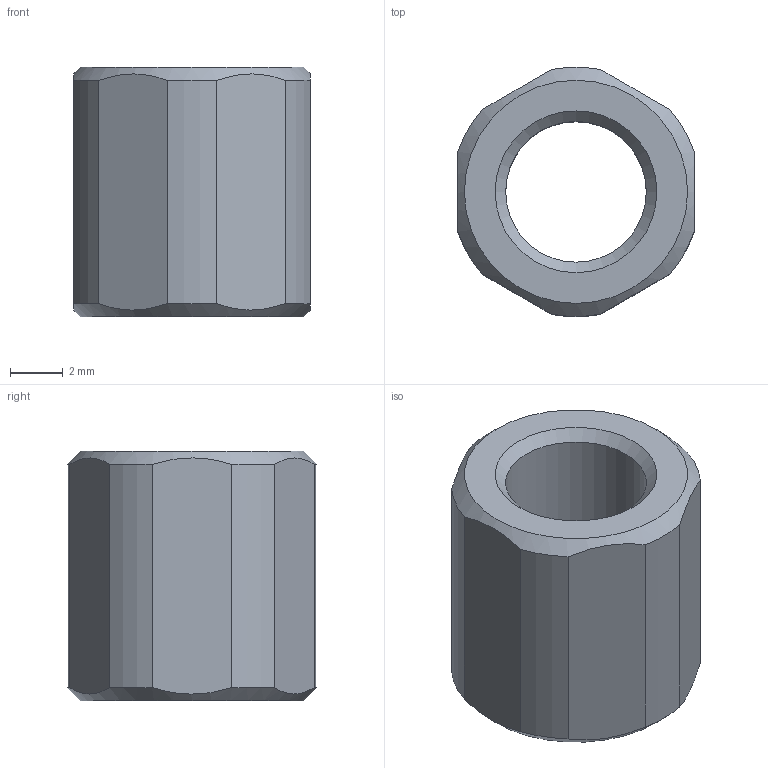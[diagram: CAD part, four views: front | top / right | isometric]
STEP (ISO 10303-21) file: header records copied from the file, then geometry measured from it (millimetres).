
FILE_DESCRIPTION(/* description */ (''),/* implementation_level */ '2;1');
FILE_NAME(/* name */ 'FIT.RNG.1-4.stp',/* time_stamp */ '2026-07-05T21:46:57+02:00',/* author */ ('janos'),/* organization */ (''),/* preprocessor_version */ 'ST-DEVELOPER v19.2',/* originating_system */ 'Autodesk Inventor 2024',/* authorisation */ '');
FILE_SCHEMA (('AUTOMOTIVE_DESIGN { 1 0 10303 214 3 1 1 }'));
Length unit declared in the file: millimetre
Products named in the file (1): 1-4 Druckring
Bounding box: 9 x 9.48 x 9.5 mm (x, y, z)
Volume: 422.4 mm3; surface area: 509.1 mm2
Topology: 1 solids, 1 shells, 19 faces, 50 edges, 33 vertices
Faces by surface type: plane 8, cylinder 7, cone 4
Full cylindrical faces by diameter (mm): 5.359 x1
Entity records: 628 total; most frequent: CARTESIAN_POINT 131, ORIENTED_EDGE 100, DIRECTION 95, EDGE_CURVE 50, AXIS2_PLACEMENT_3D 39, VERTEX_POINT 33, EDGE_LOOP 21, CIRCLE 19
